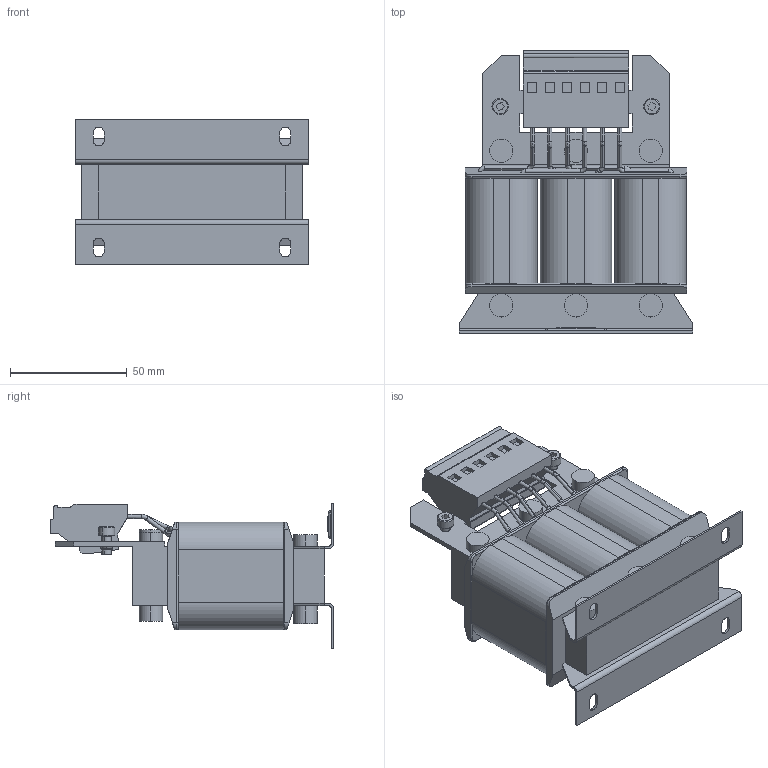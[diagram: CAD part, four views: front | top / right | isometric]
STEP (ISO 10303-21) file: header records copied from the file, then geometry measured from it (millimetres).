
FILE_DESCRIPTION (( 'STEP AP214' ), '1' );
FILE_NAME ('00Z1FX4-0010.STEP', '2022-08-16T08:23:47', ( '' ), ( '' ), 'SwSTEP 2.0', 'SolidWorks 2022', '' );
FILE_SCHEMA (( 'AUTOMOTIVE_DESIGN' ));
Length unit declared in the file: centimetre
Products named in the file (1): 00Z1FX4-0010
Bounding box: 100 x 121.2 x 62.5 mm (x, y, z)
Volume: 305814 mm3; surface area: 56737.9 mm2
Topology: 1 solids, 1 shells, 435 faces, 1143 edges, 734 vertices
Faces by surface type: plane 221, cylinder 132, torus 56, bspline 22, cone 4
Entity records: 14927 total; most frequent: CARTESIAN_POINT 3961, ORIENTED_EDGE 2286, DIRECTION 2194, EDGE_CURVE 1143, AXIS2_PLACEMENT_3D 797, VERTEX_POINT 734, VECTOR 600, LINE 600
